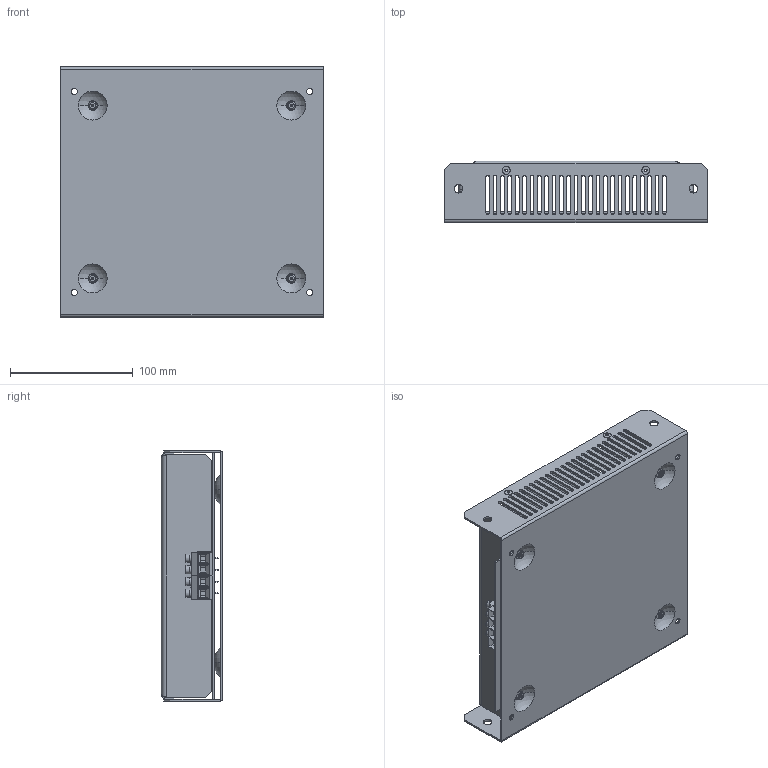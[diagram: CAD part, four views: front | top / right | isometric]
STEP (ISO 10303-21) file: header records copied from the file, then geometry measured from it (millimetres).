
FILE_DESCRIPTION (( 'STEP AP214' ), '1' );
FILE_NAME ('MIF316-323.STEP', '2015-01-19T09:20:30', ( '' ), ( '' ), 'SwSTEP 2.0', 'SolidWorks 2014', '' );
FILE_SCHEMA (( 'AUTOMOTIVE_DESIGN' ));
Length unit declared in the file: millimetre
Products named in the file (8): BOX683B; BOX683; MIF316-323; TER730; PCB167; FIX139; FIX119; BOX683_boxclosed
Assembly tree (14 placements, depth 3):
  MIF316-323
    BOX683_boxclosed
      BOX683
      BOX683B
    FIX119  x2
    FIX139  x4
    PCB167
    TER730  x4
Bounding box: 214 x 50 x 204 mm (x, y, z)
Volume: 217562.9 mm3; surface area: 314177.4 mm2
Topology: 9 solids, 29 shells, 1577 faces, 4448 edges, 2948 vertices
Faces by surface type: plane 764, cylinder 710, torus 44, sphere 24, bspline 23, cone 12
Entity records: 42136 total; most frequent: CARTESIAN_POINT 8711, DIRECTION 6544, ORIENTED_EDGE 6244, EDGE_CURVE 3149, AXIS2_PLACEMENT_3D 2352, VERTEX_POINT 2080, VECTOR 1840, LINE 1840
